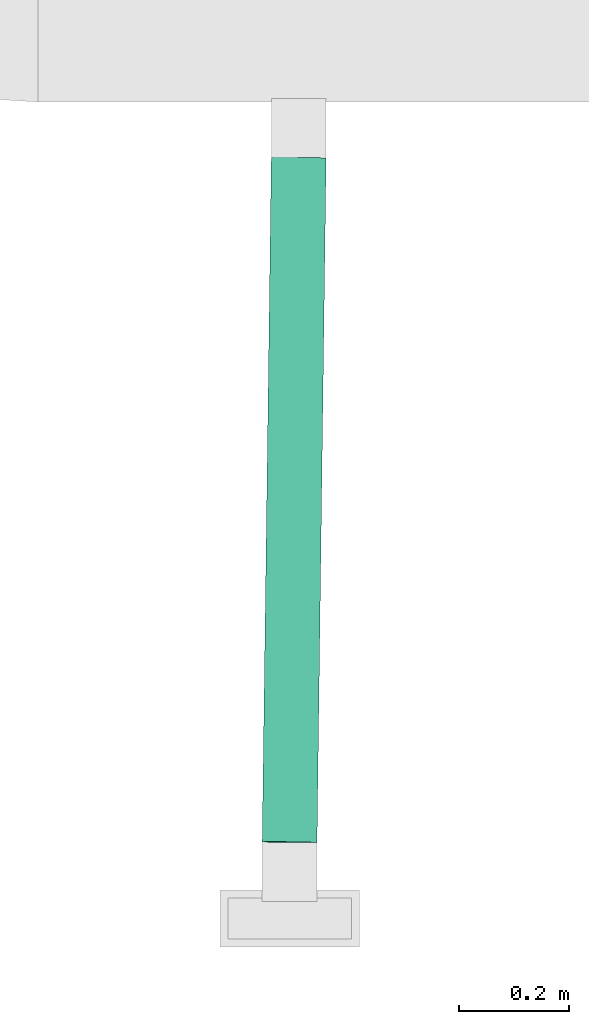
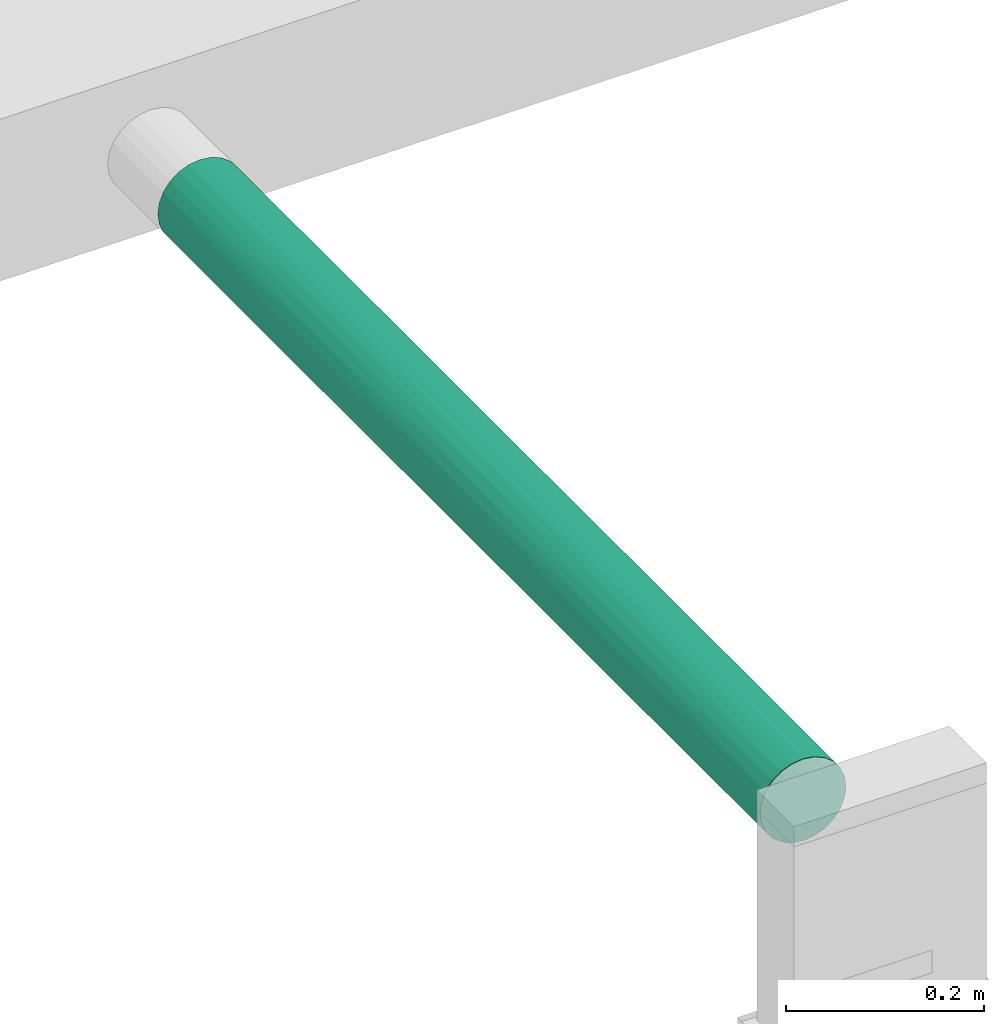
# One storey, part 36 of 60: 1 flow segment.
"""IFC2X3 building model written with IfcOpenShell, lengths in millimetres."""

from ifc_helpers import new_model, entity, si_unit, converted_unit, derived_unit, direction, frame, origin, place, context, subcontext, project, spatial, faceted_brep, type_object, element, save


model = new_model("IFC2X3")

# Units and contexts
model_context = context("Model", 3, precision=0.01, world=origin(), true_north=direction((6.123233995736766e-17, 1.0)))
body_context = subcontext(model_context, "Body", "Model", "MODEL_VIEW")
ifc_project = project(units=[si_unit("LENGTHUNIT", "METRE", prefix="MILLI"), converted_unit("PLANEANGLEUNIT", "DEGREE", entity("IfcPlaneAngleMeasure", 0.017453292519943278), si_unit("PLANEANGLEUNIT", "RADIAN"), dimensions=[0, 0, 0, 0, 0, 0, 0]), si_unit("AREAUNIT", "SQUARE_METRE"), derived_unit("THERMALTRANSMITTANCEUNIT", [(si_unit("MASSUNIT", "GRAM", prefix="KILO"), 1), (si_unit("THERMODYNAMICTEMPERATUREUNIT", "KELVIN"), -1), (si_unit("TIMEUNIT", "SECOND"), -3)])], contexts=[model_context])

# Site, building, storey
site_placement = place(None, origin())
site = spatial("IfcSite", under=ifc_project, at=site_placement, Name="Default", CompositionType="ELEMENT")
building_placement = place(site_placement, origin())
building = spatial("IfcBuilding", under=site, at=building_placement, Name="Praça Pedro II, 1301 - Centro (Sul), Teresina - PI, 64001-100", CompositionType="ELEMENT")
storey_placement = place(building_placement, frame((0.0, 0.0, 6040.0)))
storey = spatial("IfcBuildingStorey", under=building, at=storey_placement, Name="2PAV", CompositionType="ELEMENT", Elevation=6040.0)

# Flow segment
duct_segment_type = type_object("IfcDuctSegmentType", Name="Duto flexível redondo:Flexível - Redondo", PredefinedType="FLEXIBLESEGMENT")
flow_segment_placement = place(storey_placement, frame((17162.230211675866, -70122.87313691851, 2598.4122751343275)))
element("IfcFlowSegment", 1, at=flow_segment_placement, inside=storey, type_object=duct_segment_type, Name="Duto flexível redondo:Flexível - Redondo", ObjectType="Duto flexível redondo:Flexível - Redondo", context=body_context, shape_type="Brep", body=[
    faceted_brep([(19.881415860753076, 1251.4457299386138, 38.64872601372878), (18.18084451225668, 1251.6931856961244, 51.58772486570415), (19.88738983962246, 1251.8953744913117, 64.52672371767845), (24.884753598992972, 1252.0385174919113, 76.58395118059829), (32.832373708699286, 1252.1128597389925, 86.93772712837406), (43.18863299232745, 1252.1133349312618, 94.88245884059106), (55.247769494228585, 1252.039910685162, 99.87672598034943), (68.18797299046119, 1251.8975907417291, 101.5801774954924), (81.12738999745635, 1251.6960739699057, 99.87672598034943), (93.18422062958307, 1251.4490934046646, 94.88245884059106), (103.53681180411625, 1251.1734803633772, 86.93772712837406), (111.47965154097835, 1250.8880174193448, 76.58395118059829), (116.4714484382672, 1250.6121584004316, 64.52672371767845), (118.1720197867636, 1250.3647026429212, 51.58772486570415), (116.46547445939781, 1250.1625138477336, 38.64872601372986), (111.4681107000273, 1250.019370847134, 26.591498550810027), (103.52049059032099, 1249.9450286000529, 16.237722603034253), (93.16423130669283, 1249.9445534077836, 8.292990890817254), (81.10509480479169, 1250.0179776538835, 3.298723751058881), (68.16489130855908, 1250.1602975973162, 1.5952722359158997), (55.22547430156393, 1250.3618143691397, 3.298723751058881), (43.1686436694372, 1250.6087949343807, 8.292990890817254), (32.816052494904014, 1250.8844079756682, 16.237722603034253), (24.873212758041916, 1251.1698709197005, 26.591498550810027), (110.21552272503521, 937.9955280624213, 37.8800888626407), (112.64319646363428, 902.6600576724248, 48.13769719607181), (108.17268832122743, 625.9878732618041, 49.49602073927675), (72.81230866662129, 625.8433370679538, 14.146018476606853), (73.98048405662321, 973.4271881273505, 7.311596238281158), (83.15185981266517, 937.8849048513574, 10.824368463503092), (114.89247974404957, 1003.5229665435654, 55.87749392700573), (113.15877369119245, 873.0317981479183, 58.14525053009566), (109.8792336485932, 626.1900620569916, 62.43501959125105), (104.35041032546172, 278.48541708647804, 58.98499192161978), (106.59969360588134, 379.34832595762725, 66.72478865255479), (104.86598755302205, 248.85715756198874, 68.99254525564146), (101.58644751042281, 2.0154214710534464, 73.28231431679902), (103.17532456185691, 625.8447302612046, 37.43879327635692), (103.68717991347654, 937.8858471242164, 26.577895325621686), (94.45626848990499, 937.8481156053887, 17.34969294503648), (95.22770445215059, 625.7703880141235, 27.08501732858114), (63.151645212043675, 872.8273930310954, 8.152797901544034), (64.88534753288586, 1003.318280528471, 5.885046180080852), (65.68769791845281, 349.25254754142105, 18.158890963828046), (54.858859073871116, 248.65275244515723, 19.000092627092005), (56.59256139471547, 379.1436399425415, 16.73234090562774), (59.87210517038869, 625.9856570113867, 12.442566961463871), (84.87144516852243, 625.7699128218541, 19.14028561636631), (64.5195225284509, 1.6686964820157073, 24.99331320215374), (51.5793190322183, 1.811016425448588, 23.28986168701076), (44.88689363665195, 938.3932931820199, 10.824368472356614), (54.056932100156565, 902.7503561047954, 8.544244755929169), (46.932688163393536, 626.1871737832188, 14.146018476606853), (11.588629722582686, 627.2710893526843, 49.49602073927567), (15.412500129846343, 974.8934018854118, 46.905048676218), (17.83572245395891, 939.2228863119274, 37.880088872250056), (45.76414596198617, 278.57571551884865, 19.391539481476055), (34.87585753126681, 626.4341543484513, 19.14028561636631), (33.58549774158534, 938.6568449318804, 17.349692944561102), (24.358847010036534, 938.939803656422, 26.577895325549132), (24.52326635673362, 626.7097673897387, 27.08501732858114), (13.167598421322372, 874.3602815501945, 58.145250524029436), (14.901304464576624, 1004.8514492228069, 55.8774939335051), (7.119713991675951, 350.7187612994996, 57.75234340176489), (4.8748122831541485, 250.1856409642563, 68.9925452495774), (6.608518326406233, 380.6768086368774, 66.72478865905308), (9.88805837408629, 627.5185451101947, 62.43501959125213), (16.580426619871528, 626.9952303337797, 37.43879327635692), (3.295843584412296, 3.096448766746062, 60.34331546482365), (1.5952722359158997, 3.3439045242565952, 73.28231431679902), (17.844555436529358, 939.8877196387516, 76.14265559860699), (14.474518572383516, 904.2941735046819, 67.11769578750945), (11.59460370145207, 627.7207339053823, 75.37401844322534), (46.95498335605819, 627.8652700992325, 110.7240207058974), (55.02195723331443, 975.385076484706, 105.47849969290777), (44.90821834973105, 939.998342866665, 103.19837599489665), (6.181732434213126, 280.11953291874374, 77.96499051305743), (16.591967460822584, 627.8638769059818, 87.43124590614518), (24.372898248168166, 939.9974006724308, 87.44484913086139), (33.603809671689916, 940.0351321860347, 96.67305151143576), (24.539587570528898, 627.938219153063, 97.78502185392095), (63.174726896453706, 874.5646863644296, 108.1377031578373), (64.90843294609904, 1005.0558545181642, 105.86994655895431), (46.72917109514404, 351.21043589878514, 116.32579441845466), (54.881940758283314, 250.39004577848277, 118.98499788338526), (56.61564680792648, 380.8812139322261, 116.7172412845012), (59.895186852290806, 627.7229501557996, 112.42747222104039), (34.895846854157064, 627.9386943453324, 105.72975356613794), (38.6621972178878, 3.6906295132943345, 121.57131543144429), (51.602400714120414, 3.5483095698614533, 123.27476694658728), (83.17318450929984, 939.4899544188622, 103.19837599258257), (73.06078292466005, 904.20387565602, 106.71114821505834), (72.83460385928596, 627.5214333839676, 110.7240207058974), (108.1786623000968, 626.4375178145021, 75.37401844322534), (113.58994115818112, 973.9188625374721, 65.88504725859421), (110.2243557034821, 938.6603613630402, 76.14265559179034), (64.76799678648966, 280.0292350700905, 117.55844294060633), (84.89143449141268, 627.2744528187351, 105.72975356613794), (94.47458041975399, 939.2264029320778, 96.67305151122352), (103.70123115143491, 938.9434441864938, 87.44484913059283), (95.24402566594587, 626.9988397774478, 97.78502185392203), (105.29715502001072, 349.74422195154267, 76.73234198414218), (103.18686540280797, 626.7133768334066, 87.43124590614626), (99.88587616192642, 2.2628772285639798, 86.2213131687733), (8.287640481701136, 2.820589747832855, 48.286088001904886), (16.23048021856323, 2.535126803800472, 37.93231205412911), (26.583071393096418, 2.259513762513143, 29.987580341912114), (38.639902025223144, 2.012533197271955, 24.99331320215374), (76.57865903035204, 1.5952722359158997, 29.987580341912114), (86.9349183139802, 1.5957474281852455, 37.93231205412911), (94.88253842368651, 1.670089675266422, 48.286088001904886), (99.87990218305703, 1.8132326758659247, 60.34331546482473), (94.89407926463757, 2.5387362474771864, 98.27854063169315), (86.95123952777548, 2.8241991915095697, 108.63231657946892), (76.5986483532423, 3.0998122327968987, 116.57704829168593), (64.54181772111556, 3.3467927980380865, 121.57131543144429), (26.60306071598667, 3.764053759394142, 116.57704829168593), (16.246801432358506, 3.763578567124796, 108.63231657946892), (8.299181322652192, 3.6892363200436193, 98.27854063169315), (3.3018175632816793, 3.546093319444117, 86.2213131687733), (101.92273658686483, 313.82088747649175, 48.727383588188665), (74.85907367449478, 313.71026426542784, 21.67166318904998), (95.39439377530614, 313.7112065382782, 37.42519005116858), (86.16348235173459, 313.6734750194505, 28.196987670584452), (36.594107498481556, 314.2186525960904, 21.671663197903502), (9.542936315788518, 315.0482457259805, 48.72738359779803), (25.29271160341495, 314.4822043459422, 28.19698767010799), (16.066060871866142, 314.7651630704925, 37.425190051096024), (9.551769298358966, 315.7130790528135, 86.98995032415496), (36.61543221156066, 315.82370228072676, 114.04567072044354), (16.080112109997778, 315.82276008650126, 98.29214385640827), (25.311023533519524, 315.8604916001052, 107.52034623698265), (74.8803983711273, 315.3153138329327, 114.04567071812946), (101.93156956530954, 314.48572077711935, 86.98995031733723), (86.1817942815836, 315.0517623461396, 107.52034623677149), (95.40844501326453, 314.768803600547, 98.29214385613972)], [[[0, 1, 2, 3, 4, 5, 6, 7, 8, 9, 10, 11, 12, 13, 14, 15, 16, 17, 18, 19, 20, 21, 22, 23]], [[24, 25, 26]], [[27, 28, 29]], [[25, 30, 31, 32]], [[33, 34, 35, 36]], [[24, 26, 37]], [[14, 13, 30]], [[26, 32, 34]], [[25, 32, 26]], [[14, 24, 15]], [[14, 30, 25]], [[38, 16, 15]], [[38, 24, 37]], [[39, 38, 40]], [[28, 41, 42, 19]], [[43, 44, 45, 46]], [[29, 47, 27]], [[27, 46, 41]], [[48, 49, 44]], [[28, 18, 29]], [[19, 18, 28]], [[39, 17, 16]], [[29, 39, 47]], [[27, 41, 28]], [[29, 17, 39]], [[38, 39, 16]], [[40, 38, 37]], [[17, 29, 18]], [[47, 39, 40]], [[14, 25, 24]], [[24, 38, 15]], [[50, 51, 52]], [[53, 54, 55]], [[51, 42, 41, 46]], [[56, 45, 44, 49]], [[50, 52, 57]], [[20, 19, 42]], [[52, 46, 45]], [[51, 46, 52]], [[20, 50, 21]], [[20, 42, 51]], [[58, 22, 21]], [[58, 50, 57]], [[59, 58, 60]], [[54, 61, 62, 1]], [[63, 64, 65, 66]], [[55, 67, 53]], [[53, 66, 61]], [[68, 69, 64]], [[54, 0, 55]], [[1, 0, 54]], [[59, 23, 22]], [[55, 59, 67]], [[53, 61, 54]], [[55, 23, 59]], [[58, 59, 22]], [[60, 58, 57]], [[23, 55, 0]], [[67, 59, 60]], [[20, 51, 50]], [[50, 58, 21]], [[70, 71, 72]], [[73, 74, 75]], [[71, 62, 61, 66]], [[76, 65, 64, 69]], [[70, 72, 77]], [[2, 1, 62]], [[72, 66, 65]], [[71, 66, 72]], [[2, 70, 3]], [[2, 62, 71]], [[78, 4, 3]], [[78, 70, 77]], [[79, 78, 80]], [[74, 81, 82, 7]], [[83, 84, 85, 86]], [[75, 87, 73]], [[73, 86, 81]], [[88, 89, 84]], [[74, 6, 75]], [[7, 6, 74]], [[79, 5, 4]], [[75, 79, 87]], [[73, 81, 74]], [[75, 5, 79]], [[78, 79, 4]], [[80, 78, 77]], [[5, 75, 6]], [[87, 79, 80]], [[2, 71, 70]], [[70, 78, 3]], [[90, 91, 92]], [[93, 94, 95]], [[91, 82, 81, 86]], [[96, 85, 84, 89]], [[90, 92, 97]], [[8, 7, 82]], [[92, 86, 85]], [[91, 86, 92]], [[8, 90, 9]], [[8, 82, 91]], [[98, 10, 9]], [[98, 90, 97]], [[99, 98, 100]], [[94, 31, 30, 13]], [[101, 35, 34, 32]], [[95, 102, 93]], [[93, 32, 31]], [[103, 36, 35]], [[94, 12, 95]], [[13, 12, 94]], [[99, 11, 10]], [[95, 99, 102]], [[93, 31, 94]], [[95, 11, 99]], [[98, 99, 10]], [[100, 98, 97]], [[11, 95, 12]], [[102, 99, 100]], [[8, 91, 90]], [[90, 98, 9]], [[104, 105, 106, 107, 49, 48, 108, 109, 110, 111, 36, 103, 112, 113, 114, 115, 89, 88, 116, 117, 118, 119, 69, 68]], [[120, 33, 111]], [[48, 43, 121]], [[120, 111, 110]], [[33, 36, 111]], [[26, 120, 37]], [[26, 34, 33]], [[122, 40, 37]], [[122, 120, 110]], [[123, 122, 109]], [[121, 108, 48]], [[43, 27, 121]], [[46, 27, 43]], [[123, 47, 40]], [[121, 123, 108]], [[48, 44, 43]], [[121, 47, 123]], [[122, 123, 40]], [[109, 122, 110]], [[47, 121, 27]], [[108, 123, 109]], [[26, 33, 120]], [[120, 122, 37]], [[124, 56, 107]], [[68, 63, 125]], [[124, 107, 106]], [[56, 49, 107]], [[52, 124, 57]], [[52, 45, 56]], [[126, 60, 57]], [[126, 124, 106]], [[127, 126, 105]], [[125, 104, 68]], [[63, 53, 125]], [[66, 53, 63]], [[127, 67, 60]], [[125, 127, 104]], [[68, 64, 63]], [[125, 67, 127]], [[126, 127, 60]], [[105, 126, 106]], [[67, 125, 53]], [[104, 127, 105]], [[52, 56, 124]], [[124, 126, 57]], [[128, 76, 119]], [[88, 83, 129]], [[128, 119, 118]], [[76, 69, 119]], [[72, 128, 77]], [[72, 65, 76]], [[130, 80, 77]], [[130, 128, 118]], [[131, 130, 117]], [[129, 116, 88]], [[83, 73, 129]], [[86, 73, 83]], [[131, 87, 80]], [[129, 131, 116]], [[88, 84, 83]], [[129, 87, 131]], [[130, 131, 80]], [[117, 130, 118]], [[87, 129, 73]], [[116, 131, 117]], [[72, 76, 128]], [[128, 130, 77]], [[132, 96, 115]], [[103, 101, 133]], [[132, 115, 114]], [[96, 89, 115]], [[92, 132, 97]], [[92, 85, 96]], [[134, 100, 97]], [[134, 132, 114]], [[135, 134, 113]], [[133, 112, 103]], [[101, 93, 133]], [[32, 93, 101]], [[135, 102, 100]], [[133, 135, 112]], [[103, 35, 101]], [[133, 102, 135]], [[134, 135, 100]], [[113, 134, 114]], [[102, 133, 93]], [[112, 135, 113]], [[92, 96, 132]], [[132, 134, 97]]]),
])

save(model, "model.ifc")
